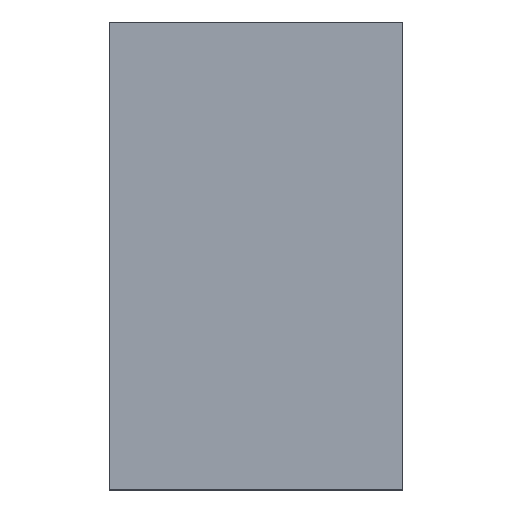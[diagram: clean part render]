
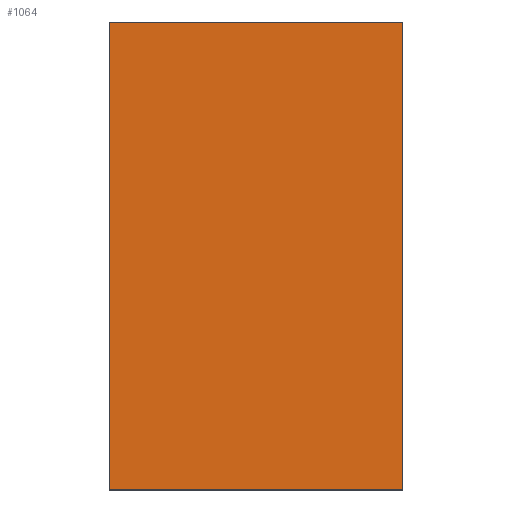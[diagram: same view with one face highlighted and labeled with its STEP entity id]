
A CAD part, left-side view. The second image highlights one B-rep face of the part: STEP entity #1064.
In plain terms, the highlighted planar face has unit normal (-1, 0, 0).
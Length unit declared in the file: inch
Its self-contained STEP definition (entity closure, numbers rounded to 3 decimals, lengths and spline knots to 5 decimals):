
#29 = CARTESIAN_POINT ( 'NONE',  ( -2.953, 0., -1.47638 ) ) ;
#40 = FACE_OUTER_BOUND ( 'NONE', #202, .T. ) ;
#54 = CARTESIAN_POINT ( 'NONE',  ( -2.953, 1.85, 1.47638 ) ) ;
#111 = CARTESIAN_POINT ( 'NONE',  ( -2.953, 1.85, 1.47638 ) ) ;
#170 = CARTESIAN_POINT ( 'NONE',  ( -2.953, 0., 1.47638 ) ) ;
#202 = EDGE_LOOP ( 'NONE', ( #401, #621, #878, #530 ) ) ;
#240 = VERTEX_POINT ( 'NONE', #111 ) ;
#262 = DIRECTION ( 'NONE',  ( 1., 0., 0. ) ) ;
#271 = VERTEX_POINT ( 'NONE', #29 ) ;
#338 = EDGE_CURVE ( 'NONE', #240, #810, #1093, .T. ) ;
#389 = VECTOR ( 'NONE', #590, 39.37008 ) ;
#397 = LINE ( 'NONE', #750, #389 ) ;
#401 = ORIENTED_EDGE ( 'NONE', *, *, #1070, .T. ) ;
#491 = DIRECTION ( 'NONE',  ( 0., -1., 0. ) ) ;
#494 = CARTESIAN_POINT ( 'NONE',  ( -2.953, 1.85, 1.47638 ) ) ;
#499 = VECTOR ( 'NONE', #668, 39.37008 ) ;
#521 = CARTESIAN_POINT ( 'NONE',  ( -2.953, 1.85, 1.47638 ) ) ;
#530 = ORIENTED_EDGE ( 'NONE', *, *, #1018, .T. ) ;
#532 = LINE ( 'NONE', #54, #499 ) ;
#589 = LINE ( 'NONE', #170, #801 ) ;
#590 = DIRECTION ( 'NONE',  ( 0., -1., 0. ) ) ;
#611 = VERTEX_POINT ( 'NONE', #877 ) ;
#621 = ORIENTED_EDGE ( 'NONE', *, *, #338, .F. ) ;
#668 = DIRECTION ( 'NONE',  ( 0., 0., 1. ) ) ;
#684 = DIRECTION ( 'NONE',  ( 0., 0., 1. ) ) ;
#699 = DIRECTION ( 'NONE',  ( 0., 0., -1. ) ) ;
#750 = CARTESIAN_POINT ( 'NONE',  ( -2.953, 1.85, -1.47638 ) ) ;
#801 = VECTOR ( 'NONE', #684, 39.37008 ) ;
#807 = AXIS2_PLACEMENT_3D ( 'NONE', #521, #262, #699 ) ;
#810 = VERTEX_POINT ( 'NONE', #888 ) ;
#860 = PLANE ( 'NONE',  #807 ) ;
#870 = VECTOR ( 'NONE', #491, 39.37008 ) ;
#877 = CARTESIAN_POINT ( 'NONE',  ( -2.953, 1.85, -1.47638 ) ) ;
#878 = ORIENTED_EDGE ( 'NONE', *, *, #961, .F. ) ;
#888 = CARTESIAN_POINT ( 'NONE',  ( -2.953, 0., 1.47638 ) ) ;
#961 = EDGE_CURVE ( 'NONE', #611, #240, #532, .T. ) ;
#1018 = EDGE_CURVE ( 'NONE', #611, #271, #397, .T. ) ;
#1064 = ADVANCED_FACE ( 'NONE', ( #40 ), #860, .F. ) ;
#1070 = EDGE_CURVE ( 'NONE', #271, #810, #589, .T. ) ;
#1093 = LINE ( 'NONE', #494, #870 ) ;
